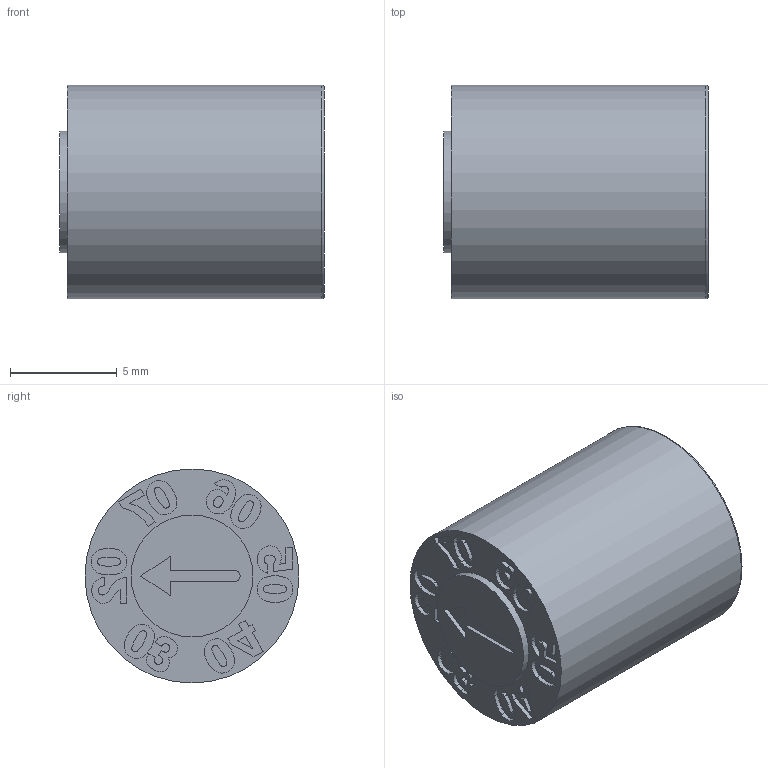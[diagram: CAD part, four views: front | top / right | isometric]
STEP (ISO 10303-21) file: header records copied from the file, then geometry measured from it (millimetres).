
FILE_DESCRIPTION( ( 'STEP AP203' ), ' ' );
FILE_NAME( 'p:/temp/worker_131/3720_3968/app_90_12017012509303418214844260eae72_000000_00_00_000000/format_0/FOY 10_07(0.35).stp', '2017-01-25T08:30:34', ( '' ), ( '' ), ' ', 'PARTsolutions', ' ' );
FILE_SCHEMA( ( 'CONFIG_CONTROL_DESIGN' ) );
Length unit declared in the file: millimetre
Products named in the file (3): FOY 10/07(0.35); _FOY 10/07(0.35)1; _FOY 10/07(0.35)2
Assembly tree (2 placements, depth 2):
  FOY 10/07(0.35)
    _FOY 10/07(0.35)1
    _FOY 10/07(0.35)2
Bounding box: 12.35 x 10 x 10 mm (x, y, z)
Volume: 783 mm3; surface area: 895.4 mm2
Topology: 2 solids, 2 shells, 166 faces, 413 edges, 274 vertices
Faces by surface type: cylinder 85, plane 77, cone 3, torus 1
Full cylindrical faces by diameter (mm): 2.121 x1, 2.5 x1, 5.7 x2, 10 x1
Entity records: 5066 total; most frequent: DIRECTION 916, CARTESIAN_POINT 847, ORIENTED_EDGE 808, EDGE_CURVE 404, AXIS2_PLACEMENT_3D 343, VERTEX_POINT 274, LINE 230, VECTOR 230
